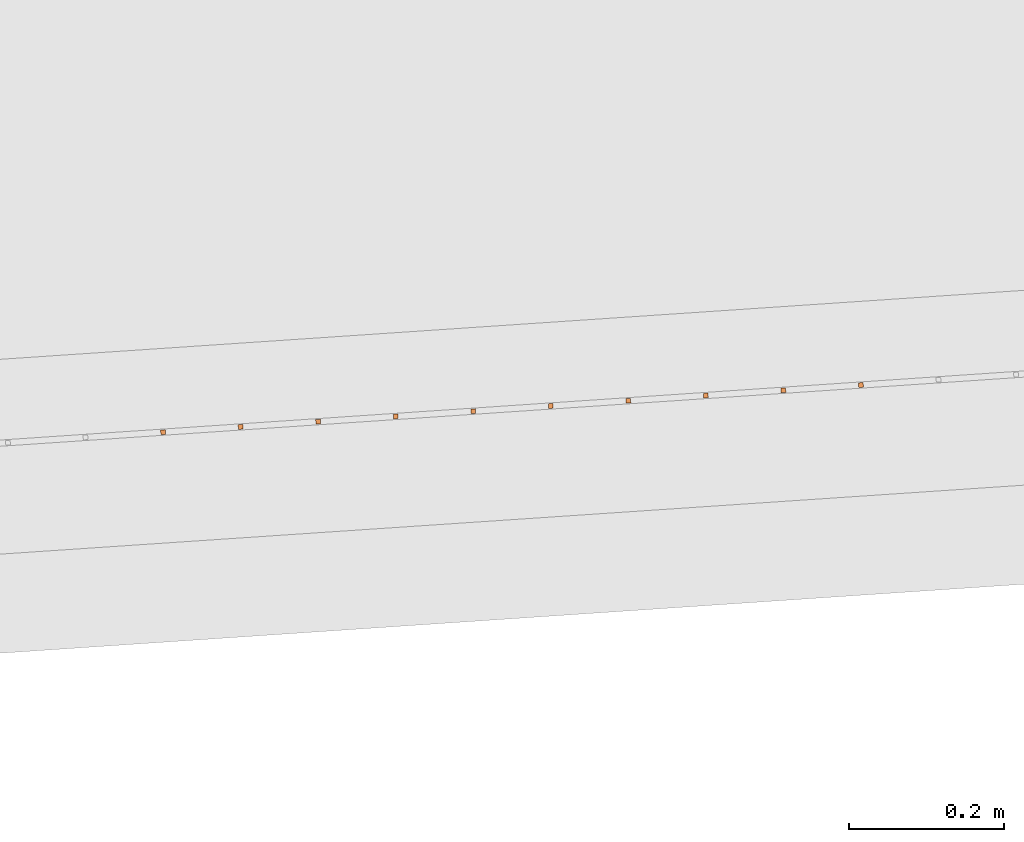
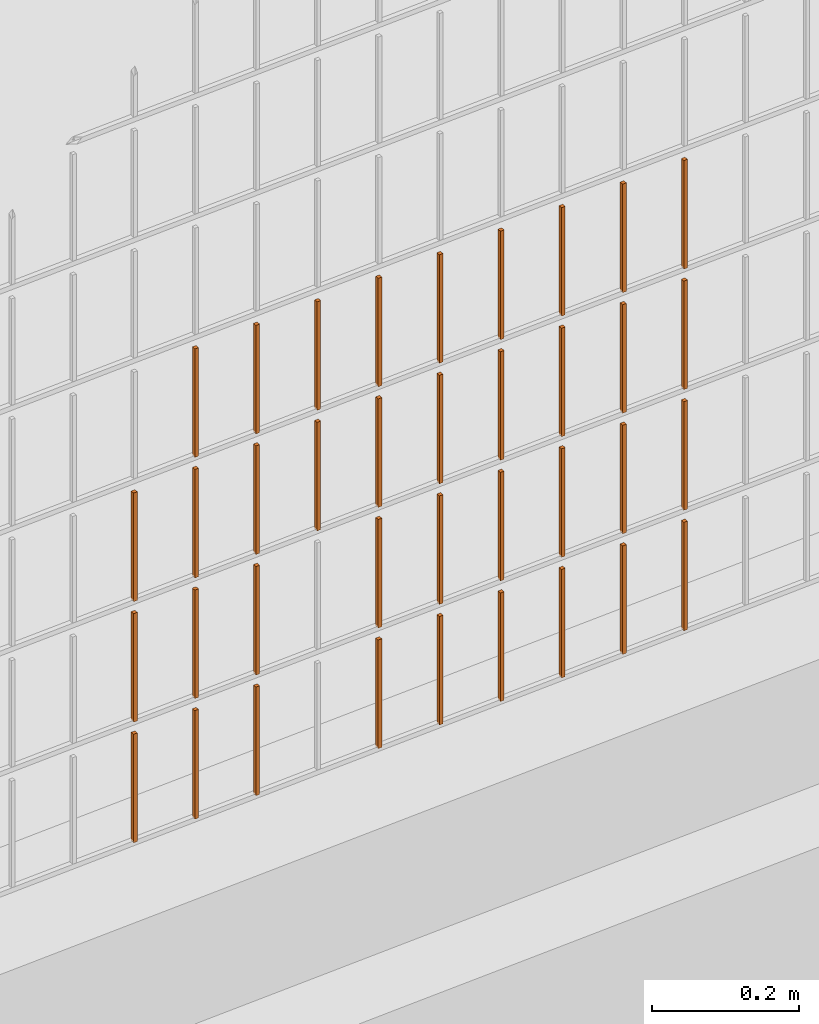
# One storey, part 295 of 1809: 37 proxies, 1 element without a shape of its own.
"""IFC2X3 building model written with IfcOpenShell, lengths in millimetres."""

import ifcopenshell
import ifcopenshell.guid

model = None  # the IFC model being written
_history = None  # IfcOwnerHistory: only IFC2X3 demands one
_inside = {}  # id of a spatial element -> (the spatial element, [elements in it])
_under = {}  # id of a project, library or spatial element -> (it, [spatial elements below it])
_declared = {}  # id of a project -> (the project, [libraries it declares])
_typed = {}  # id of a type object -> (the type object, [elements of that type])
_made_of = {}  # id of a material, layer set ... -> (it, [elements and type objects made of it])


def new_model(schema):
    """Start an empty IFC model of exactly this schema.

    Asked for "IFC4X3", IfcOpenShell would pick the latest addendum, in which some entities
    have other attributes; the version numbers below select the first issue.
    IFC2X3 requires an IfcOwnerHistory on every rooted entity: one is made here for all.
    """
    global model, _history
    if schema == "IFC4X3":
        model = ifcopenshell.file(schema_version=(4, 3, 0, 0))
    else:
        model = ifcopenshell.file(schema=schema)
    _inside.clear()
    _under.clear()
    _declared.clear()
    _typed.clear()
    _made_of.clear()
    _history = None
    if model.schema == "IFC2X3":
        org = make("IfcOrganization", Name="unknown")
        user = make(
            "IfcPersonAndOrganization",
            ThePerson=make("IfcPerson", FamilyName="unknown"),
            TheOrganization=org,
        )
        app = make(
            "IfcApplication",
            ApplicationDeveloper=org,
            Version="unknown",
            ApplicationFullName="unknown",
            ApplicationIdentifier="unknown",
        )
        _history = make(
            "IfcOwnerHistory",
            OwningUser=user,
            OwningApplication=app,
            ChangeAction="ADDED",
            CreationDate=0,
        )
    return model


def make(cls, **values):
    """One entity of the class cls with the attributes given. An attribute that is None is left unset."""
    return model.create_entity(
        cls, **{name: value for name, value in values.items() if value is not None}
    )


def entity(cls, *values):
    """Any entity or typed value of the class cls, its attributes in the order of the schema. None: left unset."""
    e = model.create_entity(cls)
    for i, value in enumerate(values):
        if value is not None:
            e[i] = value
    return e


def rooted(cls, **values):
    """An entity with a GlobalId (a new one), such as an element, a storey or a relation."""
    return make(cls, GlobalId=ifcopenshell.guid.new(), OwnerHistory=_history, **values)


def si_unit(unit_type, name, prefix=None):
    """IfcSIUnit, for example si_unit("LENGTHUNIT", "METRE", prefix="MILLI")."""
    return make("IfcSIUnit", UnitType=unit_type, Prefix=prefix, Name=name)


def converted_unit(unit_type, name, factor, base, dimensions=None, offset=None):
    """IfcConversionBasedUnit, such as the inch: factor (a typed value) times the base unit."""
    return make(
        "IfcConversionBasedUnit"
        if offset is None
        else "IfcConversionBasedUnitWithOffset",
        ConversionOffset=offset,
        Dimensions=None
        if dimensions is None
        else entity("IfcDimensionalExponents", *dimensions),
        UnitType=unit_type,
        Name=name,
        ConversionFactor=make(
            "IfcMeasureWithUnit", ValueComponent=factor, UnitComponent=base
        ),
    )


def derived_unit(unit_type, elements):
    """IfcDerivedUnit: a product of units, each with its exponent."""
    return make(
        "IfcDerivedUnit",
        Elements=[
            make("IfcDerivedUnitElement", Unit=unit, Exponent=power)
            for unit, power in elements
        ],
        UnitType=unit_type,
    )


def money_unit(currency):
    """IfcMonetaryUnit."""
    return make("IfcMonetaryUnit", Currency=currency)


def assignment(units):
    """IfcUnitAssignment: the units of a project."""
    return None if units is None else make("IfcUnitAssignment", Units=units)


def point(xyz):
    """IfcCartesianPoint."""
    return None if xyz is None else make("IfcCartesianPoint", Coordinates=xyz)


def direction(xyz):
    """IfcDirection."""
    return None if xyz is None else make("IfcDirection", DirectionRatios=xyz)


def frame(location, z_axis=None, x_axis=None):
    """IfcAxis2Placement3D, a coordinate frame: its origin and axes. An axis left out is left unset."""
    return make(
        "IfcAxis2Placement3D",
        Location=point(location),
        Axis=direction(z_axis),
        RefDirection=direction(x_axis),
    )


def origin_with_axes():
    """The frame at (0, 0, 0) with the z axis (0, 0, 1) and the x axis (1, 0, 0) written out."""
    return frame((0.0, 0.0, 0.0), z_axis=(0.0, 0.0, 1.0), x_axis=(1.0, 0.0, 0.0))


def place(relative_to, where):
    """IfcLocalPlacement: puts the frame where relative to a parent placement (None: the world)."""
    return make(
        "IfcLocalPlacement", PlacementRelTo=relative_to, RelativePlacement=where
    )


def context(
    kind, dimensions, precision=None, world=None, true_north=None, identifier=None
):
    """IfcGeometricRepresentationContext, for example the 3D "Model" context."""
    return make(
        "IfcGeometricRepresentationContext",
        ContextIdentifier=identifier,
        ContextType=kind,
        CoordinateSpaceDimension=dimensions,
        Precision=precision,
        WorldCoordinateSystem=world,
        TrueNorth=true_north,
    )


def subcontext(parent, identifier, kind, view, scale=None):
    """IfcGeometricRepresentationSubContext, for example "Body" below "Model"."""
    return make(
        "IfcGeometricRepresentationSubContext",
        ContextIdentifier=identifier,
        ContextType=kind,
        ParentContext=parent,
        TargetScale=scale,
        TargetView=view,
    )


def project(units=None, contexts=None):
    """IfcProject with its units and contexts."""
    return rooted(
        "IfcProject",
        Name="project",
        RepresentationContexts=contexts,
        UnitsInContext=assignment(units),
    )


def spatial(cls, under=None, at=None, **own):
    """A site, building, storey or space (cls), placed at a placement, below another one or the project."""
    s = rooted(cls, ObjectPlacement=at, **own)
    if under is not None:
        _under.setdefault(under.id(), (under, []))[1].append(s)
    return s


def faces_of(points, faces, orient=None, outer=None):
    """IfcFace entities. A face is a list of loops; a loop is a list of indices into points, from 0.

    orient and outer hold one flag for each loop. By default every Orientation is true, the
    first loop of a face is its IfcFaceOuterBound and the others are IfcFaceBound.
    """
    made = []
    for i, loops in enumerate(faces):
        bounds = []
        for j, loop in enumerate(loops):
            is_outer = j == 0 if outer is None else outer[i][j]
            bounds.append(
                make(
                    "IfcFaceOuterBound" if is_outer else "IfcFaceBound",
                    Bound=make("IfcPolyLoop", Polygon=[points[k] for k in loop]),
                    Orientation=True if orient is None else orient[i][j],
                )
            )
        made.append(make("IfcFace", Bounds=bounds))
    return made


def faceted_brep(points, faces, orient=None, outer=None, voids=None):
    """IfcFacetedBrep: a solid bounded by flat faces; with voids (closed shells), ...WithVoids."""
    shared = [point(p) for p in points]
    hull = make("IfcClosedShell", CfsFaces=faces_of(shared, faces, orient, outer))
    if voids is None:
        return make("IfcFacetedBrep", Outer=hull)
    return make(
        "IfcFacetedBrepWithVoids",
        Outer=hull,
        Voids=[
            make(cls, CfsFaces=faces_of(shared, fs, o, b)) for cls, fs, o, b in voids
        ],
    )


def shape(context_of_items, identifier, shape_type, items):
    """IfcShapeRepresentation: the items that make up one representation, for example the "Body"."""
    return make(
        "IfcShapeRepresentation",
        ContextOfItems=context_of_items,
        RepresentationIdentifier=identifier,
        RepresentationType=shape_type,
        Items=items,
    )


def source(mapping_origin, context_of_items, identifier, shape_type, items):
    """IfcRepresentationMap: a shape defined once, which mapped items show again and again."""
    return make(
        "IfcRepresentationMap",
        MappingOrigin=mapping_origin,
        MappedRepresentation=shape(context_of_items, identifier, shape_type, items),
    )


def transform(
    local_origin,
    x_axis=None,
    y_axis=None,
    z_axis=None,
    scale=None,
    scale2=None,
    scale3=None,
    uniform=True,
):
    """IfcCartesianTransformationOperator3D, or its non-uniform kind. x_axis, y_axis, z_axis: its Axis1, 2, 3."""
    if uniform:
        return make(
            "IfcCartesianTransformationOperator3D",
            Axis1=direction(x_axis),
            Axis2=direction(y_axis),
            LocalOrigin=point(local_origin),
            Scale=scale,
            Axis3=direction(z_axis),
        )
    return make(
        "IfcCartesianTransformationOperator3DnonUniform",
        Axis1=direction(x_axis),
        Axis2=direction(y_axis),
        LocalOrigin=point(local_origin),
        Scale=scale,
        Axis3=direction(z_axis),
        Scale2=scale2,
        Scale3=scale3,
    )


def mapped(mapping_source, mapping_target):
    """IfcMappedItem: shows the shape of a source again, moved by a transform."""
    return make(
        "IfcMappedItem", MappingSource=mapping_source, MappingTarget=mapping_target
    )


def material(Name=None, Category=None):
    """IfcMaterial."""
    return make("IfcMaterial", Name=Name, Category=Category)


def made_of(thing, what):
    """Note that an element or type object is made of a material, layer set ...; save() writes the relation."""
    if what is not None:
        _made_of.setdefault(what.id(), (what, []))[1].append(thing)
    return thing


def type_object(cls, material=None, **own):
    """A type object (cls), such as IfcWallType, which elements share."""
    return made_of(rooted(cls, **own), material)


def element(
    cls,
    number,
    at=None,
    inside=None,
    cuts=None,
    type_object=None,
    material=None,
    context=None,
    identifier="Body",
    shape_type=None,
    held_by="IfcProductDefinitionShape",
    body=None,
    shapes=None,
    **own,
):
    """One element of the class cls, such as IfcWall. Its Tag is "e" and its number.

    at: its placement. inside: the storey or other place that contains it. cuts: it is an
    opening in that element (IfcRelVoidsElement). A single representation is given by context,
    identifier, shape_type and body (its items); several are given by shapes. held_by: the class
    of the entity that holds the representations. save() writes the other relations.
    """
    e = rooted(cls, Tag="e%d" % number, ObjectPlacement=at, **own)
    if body is not None:
        shapes = [shape(context, identifier, shape_type, body)]
    if shapes is not None:
        e.Representation = make(held_by, Representations=shapes)
    if inside is not None:
        _inside.setdefault(inside.id(), (inside, []))[1].append(e)
    if cuts is not None:
        rooted(
            "IfcRelVoidsElement", RelatingBuildingElement=cuts, RelatedOpeningElement=e
        )
    if type_object is not None:
        _typed.setdefault(type_object.id(), (type_object, []))[1].append(e)
    return made_of(e, material)


def aggregate(whole, parts):
    """IfcRelAggregates: a whole, such as a stair, and the parts it consists of."""
    return rooted("IfcRelAggregates", RelatingObject=whole, RelatedObjects=parts)


def save(model, path):
    """Write the relations noted so far, then the file.

    IfcRelAggregates (storeys below a building ...), IfcRelContainedInSpatialStructure (elements
    in a storey), IfcRelDefinesByType, IfcRelAssociatesMaterial and IfcRelDeclares: one each for
    every whole, place, type object, material and project.
    """
    for whole, parts in _under.values():
        aggregate(whole, parts)
    for where, things in _inside.values():
        rooted(
            "IfcRelContainedInSpatialStructure",
            RelatedElements=things,
            RelatingStructure=where,
        )
    for kind, things in _typed.values():
        rooted("IfcRelDefinesByType", RelatedObjects=things, RelatingType=kind)
    for what, things in _made_of.values():
        rooted("IfcRelAssociatesMaterial", RelatedObjects=things, RelatingMaterial=what)
    for by, libraries in _declared.values():
        rooted("IfcRelDeclares", RelatingContext=by, RelatedDefinitions=libraries)
    model.write(path)


model = new_model("IFC2X3")

# Units and contexts
model_context = context("Model", 3, precision=0.01, world=origin_with_axes(), true_north=direction((0.0, 1.0)))
body_context = subcontext(model_context, "Body", "Model", "MODEL_VIEW")
ifc_project = project(units=[si_unit("LENGTHUNIT", "METRE", prefix="MILLI"), si_unit("AREAUNIT", "SQUARE_METRE"), si_unit("VOLUMEUNIT", "CUBIC_METRE"), converted_unit("PLANEANGLEUNIT", "DEGREE", entity("IfcPlaneAngleMeasure", 0.0174532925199), si_unit("PLANEANGLEUNIT", "RADIAN"), dimensions=[0, 0, 0, 0, 0, 0, 0]), si_unit("SOLIDANGLEUNIT", "STERADIAN"), money_unit("EUR"), converted_unit("TIMEUNIT", "Year", entity("IfcTimeMeasure", 31556926.0), si_unit("TIMEUNIT", "SECOND"), dimensions=[0, 0, 1, 0, 0, 0, 0]), si_unit("MASSUNIT", "GRAM", prefix="KILO"), si_unit("THERMODYNAMICTEMPERATUREUNIT", "DEGREE_CELSIUS"), si_unit("LUMINOUSINTENSITYUNIT", "LUMEN"), si_unit("ENERGYUNIT", "JOULE", prefix="MEGA"), derived_unit("THERMALCONDUCTANCEUNIT", [(si_unit("POWERUNIT", "WATT"), 1), (si_unit("LENGTHUNIT", "METRE"), -1), (si_unit("THERMODYNAMICTEMPERATUREUNIT", "KELVIN"), -1)]), derived_unit("SPECIFICHEATCAPACITYUNIT", [(si_unit("ENERGYUNIT", "JOULE"), 1), (si_unit("MASSUNIT", "GRAM", prefix="KILO"), -1), (si_unit("THERMODYNAMICTEMPERATUREUNIT", "KELVIN"), -1)]), derived_unit("MASSDENSITYUNIT", [(si_unit("MASSUNIT", "GRAM", prefix="KILO"), 1), (si_unit("VOLUMEUNIT", "CUBIC_METRE"), -1)])], contexts=[model_context])

# Site, building, storey
site_placement = place(None, origin_with_axes())
site = spatial("IfcSite", under=ifc_project, at=site_placement, Name="Politse- ja Piirivalveameti ning Päästeameti ühishoone", CompositionType="ELEMENT")
building_placement = place(site_placement, origin_with_axes())
building = spatial("IfcBuilding", under=site, at=building_placement, Name="Politse- ja Piirivalveameti ning Päästeameti ühishoone", CompositionType="ELEMENT")
storey_placement = place(building_placement, origin_with_axes())
storey = spatial("IfcBuildingStorey", under=building, at=storey_placement, Name="Esimene korrus", CompositionType="ELEMENT", Elevation=0.0)

# Proxies
building_element_proxy_type_1 = type_object("IfcBuildingElementProxyType", Name="Railing Type", PredefinedType="NOTDEFINED")
proxy_1_placement = place(storey_placement, frame((89252.001212, -29183.4766571, 203.661247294), z_axis=(0.0, 0.0, 1.0), x_axis=(1.0, 0.0, 0.0)))
proxy_1 = element("IfcBuildingElementProxy", 1, at=proxy_1_placement, inside=storey, type_object=building_element_proxy_type_1, Name="PIIRDEAED")
ifc_material = material(Name="ET-03_Raud")
building_element_proxy_type_2 = type_object("IfcBuildingElementProxyType", Name="IfcBuildingElementProxy", PredefinedType="NOTDEFINED")
shared_shape_1 = source(origin_with_axes(), body_context, "Body", "Brep", [
    faceted_brep([(3.0, 3.0, -0.000752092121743), (-3.0, 3.0, -0.000752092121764), (-3.0, 3.0, 179.99926046), (3.0, 3.0, 179.99926046), (3.0, -3.0, 0.000752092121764), (-3.0, -3.0, 0.000752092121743), (-3.0, -3.0, 180.000764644), (3.0, -3.0, 180.000764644)], [[[0, 1, 2, 3]], [[0, 4, 5, 1]], [[1, 5, 6, 2]], [[3, 2, 6, 7]], [[4, 0, 3, 7]], [[5, 4, 7, 6]]]),
])
proxy_2_placement = place(proxy_1_placement, frame((-45223.6391147, -20352.4609159, 615.871103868), z_axis=(0.0, 0.0, 1.0), x_axis=(1.0, 0.0, 0.0)))
proxy_2 = element("IfcBuildingElementProxy", 2, at=proxy_2_placement, type_object=building_element_proxy_type_2, material=ifc_material, Name="BALUSTER - 001", context=body_context, shape_type="MappedRepresentation", body=[
    mapped(shared_shape_1, transform((0.0, 0.0, 0.0), x_axis=(-0.0673926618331, 0.997726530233, 0.0), y_axis=(-0.997726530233, -0.0673926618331, 0.0), z_axis=(0.0, 0.0, 1.0))),
])
shared_shape_2 = source(origin_with_axes(), body_context, "Body", "Brep", [
    faceted_brep([(3.0, 3.0, -0.000752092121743), (-3.0, 3.0, -0.000752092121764), (-3.0, 3.0, 179.99926046), (3.0, 3.0, 179.99926046), (3.0, -3.0, 0.000752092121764), (-3.0, -3.0, 0.000752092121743), (-3.0, -3.0, 180.000764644), (3.0, -3.0, 180.000764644)], [[[0, 1, 2, 3]], [[0, 4, 5, 1]], [[1, 5, 6, 2]], [[3, 2, 6, 7]], [[4, 0, 3, 7]], [[5, 4, 7, 6]]]),
])
proxy_3_placement = place(proxy_1_placement, frame((-45223.6391147, -20352.4609159, 415.871103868), z_axis=(0.0, 0.0, 1.0), x_axis=(1.0, 0.0, 0.0)))
proxy_3 = element("IfcBuildingElementProxy", 3, at=proxy_3_placement, type_object=building_element_proxy_type_2, material=ifc_material, Name="BALUSTER - 001", context=body_context, shape_type="MappedRepresentation", body=[
    mapped(shared_shape_2, transform((0.0, 0.0, 0.0), x_axis=(-0.0673926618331, 0.997726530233, 0.0), y_axis=(-0.997726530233, -0.0673926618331, 0.0), z_axis=(0.0, 0.0, 1.0))),
])
shared_shape_3 = source(origin_with_axes(), body_context, "Body", "Brep", [
    faceted_brep([(3.0, 3.0, -0.000752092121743), (-3.0, 3.0, -0.000752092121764), (-3.0, 3.0, 179.99926046), (3.0, 3.0, 179.99926046), (3.0, -3.0, 0.000752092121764), (-3.0, -3.0, 0.000752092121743), (-3.0, -3.0, 180.000764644), (3.0, -3.0, 180.000764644)], [[[0, 1, 2, 3]], [[0, 4, 5, 1]], [[1, 5, 6, 2]], [[3, 2, 6, 7]], [[4, 0, 3, 7]], [[5, 4, 7, 6]]]),
])
proxy_4_placement = place(proxy_1_placement, frame((-45223.6391147, -20352.4609159, 15.8711038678), z_axis=(0.0, 0.0, 1.0), x_axis=(1.0, 0.0, 0.0)))
proxy_4 = element("IfcBuildingElementProxy", 4, at=proxy_4_placement, type_object=building_element_proxy_type_2, material=ifc_material, Name="BALUSTER - 001", context=body_context, shape_type="MappedRepresentation", body=[
    mapped(shared_shape_3, transform((0.0, 0.0, 0.0), x_axis=(-0.0673926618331, 0.997726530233, 0.0), y_axis=(-0.997726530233, -0.0673926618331, 0.0), z_axis=(0.0, 0.0, 1.0))),
])
shared_shape_4 = source(origin_with_axes(), body_context, "Body", "Brep", [
    faceted_brep([(3.0, 3.0, -0.000752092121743), (-3.0, 3.0, -0.000752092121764), (-3.0, 3.0, 179.99926046), (3.0, 3.0, 179.99926046), (3.0, -3.0, 0.000752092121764), (-3.0, -3.0, 0.000752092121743), (-3.0, -3.0, 180.000764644), (3.0, -3.0, 180.000764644)], [[[0, 1, 2, 3]], [[0, 4, 5, 1]], [[1, 5, 6, 2]], [[3, 2, 6, 7]], [[4, 0, 3, 7]], [[5, 4, 7, 6]]]),
])
proxy_5_placement = place(proxy_1_placement, frame((-45822.2750329, -20392.896513, 415.720685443), z_axis=(0.0, 0.0, 1.0), x_axis=(1.0, 0.0, 0.0)))
proxy_5 = element("IfcBuildingElementProxy", 5, at=proxy_5_placement, type_object=building_element_proxy_type_2, material=ifc_material, Name="BALUSTER - 001", context=body_context, shape_type="MappedRepresentation", body=[
    mapped(shared_shape_4, transform((0.0, 0.0, 0.0), x_axis=(-0.0673926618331, 0.997726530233, 0.0), y_axis=(-0.997726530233, -0.0673926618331, 0.0), z_axis=(0.0, 0.0, 1.0))),
])
proxy_6_placement = place(proxy_1_placement, frame((-45822.2750329, -20392.896513, 615.720685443), z_axis=(0.0, 0.0, 1.0), x_axis=(1.0, 0.0, 0.0)))
proxy_6 = element("IfcBuildingElementProxy", 6, at=proxy_6_placement, type_object=building_element_proxy_type_2, material=ifc_material, Name="BALUSTER - 001", context=body_context, shape_type="MappedRepresentation", body=[
    mapped(shared_shape_4, transform((0.0, 0.0, 0.0), x_axis=(-0.0673926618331, 0.997726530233, 0.0), y_axis=(-0.997726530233, -0.0673926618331, 0.0), z_axis=(0.0, 0.0, 1.0))),
])
shared_shape_5 = source(origin_with_axes(), body_context, "Body", "Brep", [
    faceted_brep([(3.0, 3.0, -0.000752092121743), (-3.0, 3.0, -0.000752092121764), (-3.0, 3.0, 179.99926046), (3.0, 3.0, 179.99926046), (3.0, -3.0, 0.000752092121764), (-3.0, -3.0, 0.000752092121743), (-3.0, -3.0, 180.000764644), (3.0, -3.0, 180.000764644)], [[[0, 1, 2, 3]], [[0, 4, 5, 1]], [[1, 5, 6, 2]], [[3, 2, 6, 7]], [[4, 0, 3, 7]], [[5, 4, 7, 6]]]),
])
proxy_7_placement = place(proxy_1_placement, frame((-45223.6391147, -20352.4609159, 215.871103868), z_axis=(0.0, 0.0, 1.0), x_axis=(1.0, 0.0, 0.0)))
proxy_7 = element("IfcBuildingElementProxy", 7, at=proxy_7_placement, type_object=building_element_proxy_type_2, material=ifc_material, Name="BALUSTER - 001", context=body_context, shape_type="MappedRepresentation", body=[
    mapped(shared_shape_5, transform((0.0, 0.0, 0.0), x_axis=(-0.0673926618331, 0.997726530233, 0.0), y_axis=(-0.997726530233, -0.0673926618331, 0.0), z_axis=(0.0, 0.0, 1.0))),
])
shared_shape_6 = source(origin_with_axes(), body_context, "Body", "Brep", [
    faceted_brep([(3.0, 3.0, -0.000752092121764), (-3.0, 3.0, -0.000752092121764), (-3.0, 3.0, 179.99926046), (3.0, 3.0, 179.99926046), (3.0, -3.0, 0.000752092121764), (-3.0, -3.0, 0.000752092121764), (-3.0, -3.0, 180.000764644), (3.0, -3.0, 180.000764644)], [[[0, 1, 2, 3]], [[0, 4, 5, 1]], [[1, 5, 6, 2]], [[3, 2, 6, 7]], [[4, 0, 3, 7]], [[5, 4, 7, 6]]]),
])
proxy_8_placement = place(proxy_1_placement, frame((-45622.7297268, -20379.4179807, 615.770824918), z_axis=(0.0, 0.0, 1.0), x_axis=(1.0, 0.0, 0.0)))
proxy_8 = element("IfcBuildingElementProxy", 8, at=proxy_8_placement, type_object=building_element_proxy_type_2, material=ifc_material, Name="BALUSTER - 001", context=body_context, shape_type="MappedRepresentation", body=[
    mapped(shared_shape_6, transform((0.0, 0.0, 0.0), x_axis=(-0.0673926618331, 0.997726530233, 0.0), y_axis=(-0.997726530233, -0.0673926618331, 0.0), z_axis=(0.0, 0.0, 1.0))),
])
shared_shape_7 = source(origin_with_axes(), body_context, "Body", "Brep", [
    faceted_brep([(3.0, 3.0, -0.000752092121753), (-3.0, 3.0, -0.000752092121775), (-3.0, 3.0, 179.99926046), (3.0, 3.0, 179.99926046), (3.0, -3.0, 0.000752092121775), (-3.0, -3.0, 0.000752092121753), (-3.0, -3.0, 180.000764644), (3.0, -3.0, 180.000764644)], [[[0, 1, 2, 3]], [[0, 4, 5, 1]], [[1, 5, 6, 2]], [[3, 2, 6, 7]], [[4, 0, 3, 7]], [[5, 4, 7, 6]]]),
])
proxy_9_placement = place(proxy_1_placement, frame((-45423.1844208, -20365.9394483, 15.820964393), z_axis=(0.0, 0.0, 1.0), x_axis=(1.0, 0.0, 0.0)))
proxy_9 = element("IfcBuildingElementProxy", 9, at=proxy_9_placement, type_object=building_element_proxy_type_2, material=ifc_material, Name="BALUSTER - 001", context=body_context, shape_type="MappedRepresentation", body=[
    mapped(shared_shape_7, transform((0.0, 0.0, 0.0), x_axis=(-0.0673926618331, 0.997726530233, 0.0), y_axis=(-0.997726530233, -0.0673926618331, 0.0), z_axis=(0.0, 0.0, 1.0))),
])
proxy_10_placement = place(proxy_1_placement, frame((-45922.0476859, -20399.6357792, 15.695615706), z_axis=(0.0, 0.0, 1.0), x_axis=(1.0, 0.0, 0.0)))
proxy_10 = element("IfcBuildingElementProxy", 10, at=proxy_10_placement, type_object=building_element_proxy_type_2, material=ifc_material, Name="BALUSTER - 001", context=body_context, shape_type="MappedRepresentation", body=[
    mapped(shared_shape_7, transform((0.0, 0.0, 0.0), x_axis=(-0.0673926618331, 0.997726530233, 0.0), y_axis=(-0.997726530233, -0.0673926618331, 0.0), z_axis=(0.0, 0.0, 1.0))),
])
proxy_11_placement = place(proxy_1_placement, frame((-45423.1844208, -20365.9394483, 215.820964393), z_axis=(0.0, 0.0, 1.0), x_axis=(1.0, 0.0, 0.0)))
proxy_11 = element("IfcBuildingElementProxy", 11, at=proxy_11_placement, type_object=building_element_proxy_type_2, material=ifc_material, Name="BALUSTER - 001", context=body_context, shape_type="MappedRepresentation", body=[
    mapped(shared_shape_7, transform((0.0, 0.0, 0.0), x_axis=(-0.0673926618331, 0.997726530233, 0.0), y_axis=(-0.997726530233, -0.0673926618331, 0.0), z_axis=(0.0, 0.0, 1.0))),
])
proxy_12_placement = place(proxy_1_placement, frame((-45922.0476859, -20399.6357792, 215.695615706), z_axis=(0.0, 0.0, 1.0), x_axis=(1.0, 0.0, 0.0)))
proxy_12 = element("IfcBuildingElementProxy", 12, at=proxy_12_placement, type_object=building_element_proxy_type_2, material=ifc_material, Name="BALUSTER - 001", context=body_context, shape_type="MappedRepresentation", body=[
    mapped(shared_shape_7, transform((0.0, 0.0, 0.0), x_axis=(-0.0673926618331, 0.997726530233, 0.0), y_axis=(-0.997726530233, -0.0673926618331, 0.0), z_axis=(0.0, 0.0, 1.0))),
])
shared_shape_8 = source(origin_with_axes(), body_context, "Body", "Brep", [
    faceted_brep([(3.0, 3.0, -0.000752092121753), (-3.0, 3.0, -0.000752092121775), (-3.0, 3.0, 179.99926046), (3.0, 3.0, 179.99926046), (3.0, -3.0, 0.000752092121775), (-3.0, -3.0, 0.000752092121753), (-3.0, -3.0, 180.000764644), (3.0, -3.0, 180.000764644)], [[[0, 1, 2, 3]], [[0, 4, 5, 1]], [[1, 5, 6, 2]], [[3, 2, 6, 7]], [[4, 0, 3, 7]], [[5, 4, 7, 6]]]),
])
proxy_13_placement = place(proxy_1_placement, frame((-45423.1844208, -20365.9394483, 415.820964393), z_axis=(0.0, 0.0, 1.0), x_axis=(1.0, 0.0, 0.0)))
proxy_13 = element("IfcBuildingElementProxy", 13, at=proxy_13_placement, type_object=building_element_proxy_type_2, material=ifc_material, Name="BALUSTER - 001", context=body_context, shape_type="MappedRepresentation", body=[
    mapped(shared_shape_8, transform((0.0, 0.0, 0.0), x_axis=(-0.0673926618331, 0.997726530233, 0.0), y_axis=(-0.997726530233, -0.0673926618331, 0.0), z_axis=(0.0, 0.0, 1.0))),
])
proxy_14_placement = place(proxy_1_placement, frame((-45922.0476859, -20399.6357792, 415.695615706), z_axis=(0.0, 0.0, 1.0), x_axis=(1.0, 0.0, 0.0)))
proxy_14 = element("IfcBuildingElementProxy", 14, at=proxy_14_placement, type_object=building_element_proxy_type_2, material=ifc_material, Name="BALUSTER - 001", context=body_context, shape_type="MappedRepresentation", body=[
    mapped(shared_shape_8, transform((0.0, 0.0, 0.0), x_axis=(-0.0673926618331, 0.997726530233, 0.0), y_axis=(-0.997726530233, -0.0673926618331, 0.0), z_axis=(0.0, 0.0, 1.0))),
])
shared_shape_9 = source(origin_with_axes(), body_context, "Body", "Brep", [
    faceted_brep([(3.0, 3.0, -0.000752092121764), (-3.0, 3.0, -0.000752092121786), (-3.0, 3.0, 179.99926046), (3.0, 3.0, 179.99926046), (3.0, -3.0, 0.000752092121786), (-3.0, -3.0, 0.000752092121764), (-3.0, -3.0, 180.000764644), (3.0, -3.0, 180.000764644)], [[[0, 1, 2, 3]], [[0, 4, 5, 1]], [[1, 5, 6, 2]], [[3, 2, 6, 7]], [[4, 0, 3, 7]], [[5, 4, 7, 6]]]),
])
proxy_15_placement = place(proxy_1_placement, frame((-45522.9570738, -20372.6787145, 215.795894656), z_axis=(0.0, 0.0, 1.0), x_axis=(1.0, 0.0, 0.0)))
proxy_15 = element("IfcBuildingElementProxy", 15, at=proxy_15_placement, type_object=building_element_proxy_type_2, material=ifc_material, Name="BALUSTER - 001", context=body_context, shape_type="MappedRepresentation", body=[
    mapped(shared_shape_9, transform((0.0, 0.0, 0.0), x_axis=(-0.0673926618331, 0.997726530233, 0.0), y_axis=(-0.997726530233, -0.0673926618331, 0.0), z_axis=(0.0, 0.0, 1.0))),
])
shared_shape_10 = source(origin_with_axes(), body_context, "Body", "Brep", [
    faceted_brep([(3.0, 3.0, -0.000752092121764), (-3.0, 3.0, -0.000752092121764), (-3.0, 3.0, 179.99926046), (3.0, 3.0, 179.99926046), (3.0, -3.0, 0.000752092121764), (-3.0, -3.0, 0.000752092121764), (-3.0, -3.0, 180.000764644), (3.0, -3.0, 180.000764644)], [[[0, 1, 2, 3]], [[0, 4, 5, 1]], [[1, 5, 6, 2]], [[3, 2, 6, 7]], [[4, 0, 3, 7]], [[5, 4, 7, 6]]]),
])
proxy_16_placement = place(proxy_1_placement, frame((-45622.7297268, -20379.4179807, 215.770824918), z_axis=(0.0, 0.0, 1.0), x_axis=(1.0, 0.0, 0.0)))
proxy_16 = element("IfcBuildingElementProxy", 16, at=proxy_16_placement, type_object=building_element_proxy_type_2, material=ifc_material, Name="BALUSTER - 001", context=body_context, shape_type="MappedRepresentation", body=[
    mapped(shared_shape_10, transform((0.0, 0.0, 0.0), x_axis=(-0.0673926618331, 0.997726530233, 0.0), y_axis=(-0.997726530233, -0.0673926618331, 0.0), z_axis=(0.0, 0.0, 1.0))),
])
proxy_17_placement = place(proxy_1_placement, frame((-45622.7297268, -20379.4179807, 415.770824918), z_axis=(0.0, 0.0, 1.0), x_axis=(1.0, 0.0, 0.0)))
proxy_17 = element("IfcBuildingElementProxy", 17, at=proxy_17_placement, type_object=building_element_proxy_type_2, material=ifc_material, Name="BALUSTER - 001", context=body_context, shape_type="MappedRepresentation", body=[
    mapped(shared_shape_10, transform((0.0, 0.0, 0.0), x_axis=(-0.0673926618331, 0.997726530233, 0.0), y_axis=(-0.997726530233, -0.0673926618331, 0.0), z_axis=(0.0, 0.0, 1.0))),
])
shared_shape_11 = source(origin_with_axes(), body_context, "Body", "Brep", [
    faceted_brep([(3.0, 3.0, -0.000752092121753), (-3.0, 3.0, -0.000752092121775), (-3.0, 3.0, 179.99926046), (3.0, 3.0, 179.99926046), (3.0, -3.0, 0.000752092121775), (-3.0, -3.0, 0.000752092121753), (-3.0, -3.0, 180.000764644), (3.0, -3.0, 180.000764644)], [[[0, 1, 2, 3]], [[0, 4, 5, 1]], [[1, 5, 6, 2]], [[3, 2, 6, 7]], [[4, 0, 3, 7]], [[5, 4, 7, 6]]]),
])
proxy_18_placement = place(proxy_1_placement, frame((-45423.1844208, -20365.9394483, 615.820964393), z_axis=(0.0, 0.0, 1.0), x_axis=(1.0, 0.0, 0.0)))
proxy_18 = element("IfcBuildingElementProxy", 18, at=proxy_18_placement, type_object=building_element_proxy_type_2, material=ifc_material, Name="BALUSTER - 001", context=body_context, shape_type="MappedRepresentation", body=[
    mapped(shared_shape_11, transform((0.0, 0.0, 0.0), x_axis=(-0.0673926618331, 0.997726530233, 0.0), y_axis=(-0.997726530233, -0.0673926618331, 0.0), z_axis=(0.0, 0.0, 1.0))),
])
proxy_19_placement = place(proxy_1_placement, frame((-45922.0476859, -20399.6357792, 615.695615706), z_axis=(0.0, 0.0, 1.0), x_axis=(1.0, 0.0, 0.0)))
proxy_19 = element("IfcBuildingElementProxy", 19, at=proxy_19_placement, type_object=building_element_proxy_type_2, material=ifc_material, Name="BALUSTER - 001", context=body_context, shape_type="MappedRepresentation", body=[
    mapped(shared_shape_11, transform((0.0, 0.0, 0.0), x_axis=(-0.0673926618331, 0.997726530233, 0.0), y_axis=(-0.997726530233, -0.0673926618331, 0.0), z_axis=(0.0, 0.0, 1.0))),
])
shared_shape_12 = source(origin_with_axes(), body_context, "Body", "Brep", [
    faceted_brep([(3.0, 3.0, -0.000752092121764), (-3.0, 3.0, -0.000752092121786), (-3.0, 3.0, 179.99926046), (3.0, 3.0, 179.99926046), (3.0, -3.0, 0.000752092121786), (-3.0, -3.0, 0.000752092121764), (-3.0, -3.0, 180.000764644), (3.0, -3.0, 180.000764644)], [[[0, 1, 2, 3]], [[0, 4, 5, 1]], [[1, 5, 6, 2]], [[3, 2, 6, 7]], [[4, 0, 3, 7]], [[5, 4, 7, 6]]]),
])
proxy_20_placement = place(proxy_1_placement, frame((-45522.9570738, -20372.6787145, 615.795894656), z_axis=(0.0, 0.0, 1.0), x_axis=(1.0, 0.0, 0.0)))
proxy_20 = element("IfcBuildingElementProxy", 20, at=proxy_20_placement, type_object=building_element_proxy_type_2, material=ifc_material, Name="BALUSTER - 001", context=body_context, shape_type="MappedRepresentation", body=[
    mapped(shared_shape_12, transform((0.0, 0.0, 0.0), x_axis=(-0.0673926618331, 0.997726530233, 0.0), y_axis=(-0.997726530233, -0.0673926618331, 0.0), z_axis=(0.0, 0.0, 1.0))),
])
shared_shape_13 = source(origin_with_axes(), body_context, "Body", "Brep", [
    faceted_brep([(3.0, 3.0, -0.000752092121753), (-3.0, 3.0, -0.000752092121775), (-3.0, 3.0, 179.99926046), (3.0, 3.0, 179.99926046), (3.0, -3.0, 0.000752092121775), (-3.0, -3.0, 0.000752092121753), (-3.0, -3.0, 180.000764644), (3.0, -3.0, 180.000764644)], [[[0, 1, 2, 3]], [[0, 4, 5, 1]], [[1, 5, 6, 2]], [[3, 2, 6, 7]], [[4, 0, 3, 7]], [[5, 4, 7, 6]]]),
])
proxy_21_placement = place(proxy_1_placement, frame((-45323.4117678, -20359.2001821, 15.8460341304), z_axis=(0.0, 0.0, 1.0), x_axis=(1.0, 0.0, 0.0)))
proxy_21 = element("IfcBuildingElementProxy", 21, at=proxy_21_placement, type_object=building_element_proxy_type_2, material=ifc_material, Name="BALUSTER - 001", context=body_context, shape_type="MappedRepresentation", body=[
    mapped(shared_shape_13, transform((0.0, 0.0, 0.0), x_axis=(-0.0673926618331, 0.997726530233, 0.0), y_axis=(-0.997726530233, -0.0673926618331, 0.0), z_axis=(0.0, 0.0, 1.0))),
])
proxy_22_placement = place(proxy_1_placement, frame((-46021.8203389, -20406.3750454, 15.6705459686), z_axis=(0.0, 0.0, 1.0), x_axis=(1.0, 0.0, 0.0)))
proxy_22 = element("IfcBuildingElementProxy", 22, at=proxy_22_placement, type_object=building_element_proxy_type_2, material=ifc_material, Name="BALUSTER - 001", context=body_context, shape_type="MappedRepresentation", body=[
    mapped(shared_shape_13, transform((0.0, 0.0, 0.0), x_axis=(-0.0673926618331, 0.997726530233, 0.0), y_axis=(-0.997726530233, -0.0673926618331, 0.0), z_axis=(0.0, 0.0, 1.0))),
])
shared_shape_14 = source(origin_with_axes(), body_context, "Body", "Brep", [
    faceted_brep([(3.0, 3.0, -0.000752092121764), (-3.0, 3.0, -0.000752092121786), (-3.0, 3.0, 179.99926046), (3.0, 3.0, 179.99926046), (3.0, -3.0, 0.000752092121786), (-3.0, -3.0, 0.000752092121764), (-3.0, -3.0, 180.000764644), (3.0, -3.0, 180.000764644)], [[[0, 1, 2, 3]], [[0, 4, 5, 1]], [[1, 5, 6, 2]], [[3, 2, 6, 7]], [[4, 0, 3, 7]], [[5, 4, 7, 6]]]),
])
proxy_23_placement = place(proxy_1_placement, frame((-45522.9570738, -20372.6787145, 415.795894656), z_axis=(0.0, 0.0, 1.0), x_axis=(1.0, 0.0, 0.0)))
proxy_23 = element("IfcBuildingElementProxy", 23, at=proxy_23_placement, type_object=building_element_proxy_type_2, material=ifc_material, Name="BALUSTER - 001", context=body_context, shape_type="MappedRepresentation", body=[
    mapped(shared_shape_14, transform((0.0, 0.0, 0.0), x_axis=(-0.0673926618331, 0.997726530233, 0.0), y_axis=(-0.997726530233, -0.0673926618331, 0.0), z_axis=(0.0, 0.0, 1.0))),
])
shared_shape_15 = source(origin_with_axes(), body_context, "Body", "Brep", [
    faceted_brep([(3.0, 3.0, -0.000752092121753), (-3.0, 3.0, -0.000752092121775), (-3.0, 3.0, 179.99926046), (3.0, 3.0, 179.99926046), (3.0, -3.0, 0.000752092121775), (-3.0, -3.0, 0.000752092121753), (-3.0, -3.0, 180.000764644), (3.0, -3.0, 180.000764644)], [[[0, 1, 2, 3]], [[0, 4, 5, 1]], [[1, 5, 6, 2]], [[3, 2, 6, 7]], [[4, 0, 3, 7]], [[5, 4, 7, 6]]]),
])
proxy_24_placement = place(proxy_1_placement, frame((-45323.4117678, -20359.2001821, 615.84603413), z_axis=(0.0, 0.0, 1.0), x_axis=(1.0, 0.0, 0.0)))
proxy_24 = element("IfcBuildingElementProxy", 24, at=proxy_24_placement, type_object=building_element_proxy_type_2, material=ifc_material, Name="BALUSTER - 001", context=body_context, shape_type="MappedRepresentation", body=[
    mapped(shared_shape_15, transform((0.0, 0.0, 0.0), x_axis=(-0.0673926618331, 0.997726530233, 0.0), y_axis=(-0.997726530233, -0.0673926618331, 0.0), z_axis=(0.0, 0.0, 1.0))),
])
proxy_25_placement = place(proxy_1_placement, frame((-46021.8203389, -20406.3750454, 615.670545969), z_axis=(0.0, 0.0, 1.0), x_axis=(1.0, 0.0, 0.0)))
proxy_25 = element("IfcBuildingElementProxy", 25, at=proxy_25_placement, type_object=building_element_proxy_type_2, material=ifc_material, Name="BALUSTER - 001", context=body_context, shape_type="MappedRepresentation", body=[
    mapped(shared_shape_15, transform((0.0, 0.0, 0.0), x_axis=(-0.0673926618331, 0.997726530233, 0.0), y_axis=(-0.997726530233, -0.0673926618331, 0.0), z_axis=(0.0, 0.0, 1.0))),
])
shared_shape_16 = source(origin_with_axes(), body_context, "Body", "Brep", [
    faceted_brep([(3.0, 3.0, -0.000752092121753), (-3.0, 3.0, -0.000752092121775), (-3.0, 3.0, 179.99926046), (3.0, 3.0, 179.99926046), (3.0, -3.0, 0.000752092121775), (-3.0, -3.0, 0.000752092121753), (-3.0, -3.0, 180.000764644), (3.0, -3.0, 180.000764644)], [[[0, 1, 2, 3]], [[0, 4, 5, 1]], [[1, 5, 6, 2]], [[3, 2, 6, 7]], [[4, 0, 3, 7]], [[5, 4, 7, 6]]]),
])
proxy_26_placement = place(proxy_1_placement, frame((-45323.4117678, -20359.2001821, 215.84603413), z_axis=(0.0, 0.0, 1.0), x_axis=(1.0, 0.0, 0.0)))
proxy_26 = element("IfcBuildingElementProxy", 26, at=proxy_26_placement, type_object=building_element_proxy_type_2, material=ifc_material, Name="BALUSTER - 001", context=body_context, shape_type="MappedRepresentation", body=[
    mapped(shared_shape_16, transform((0.0, 0.0, 0.0), x_axis=(-0.0673926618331, 0.997726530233, 0.0), y_axis=(-0.997726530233, -0.0673926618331, 0.0), z_axis=(0.0, 0.0, 1.0))),
])
proxy_27_placement = place(proxy_1_placement, frame((-46021.8203389, -20406.3750454, 215.670545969), z_axis=(0.0, 0.0, 1.0), x_axis=(1.0, 0.0, 0.0)))
proxy_27 = element("IfcBuildingElementProxy", 27, at=proxy_27_placement, type_object=building_element_proxy_type_2, material=ifc_material, Name="BALUSTER - 001", context=body_context, shape_type="MappedRepresentation", body=[
    mapped(shared_shape_16, transform((0.0, 0.0, 0.0), x_axis=(-0.0673926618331, 0.997726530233, 0.0), y_axis=(-0.997726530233, -0.0673926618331, 0.0), z_axis=(0.0, 0.0, 1.0))),
])
shared_shape_17 = source(origin_with_axes(), body_context, "Body", "Brep", [
    faceted_brep([(3.0, 3.0, -0.000752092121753), (-3.0, 3.0, -0.000752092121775), (-3.0, 3.0, 179.99926046), (3.0, 3.0, 179.99926046), (3.0, -3.0, 0.000752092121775), (-3.0, -3.0, 0.000752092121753), (-3.0, -3.0, 180.000764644), (3.0, -3.0, 180.000764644)], [[[0, 1, 2, 3]], [[0, 4, 5, 1]], [[1, 5, 6, 2]], [[3, 2, 6, 7]], [[4, 0, 3, 7]], [[5, 4, 7, 6]]]),
])
proxy_28_placement = place(proxy_1_placement, frame((-46121.592992, -20413.1143116, 15.6454762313), z_axis=(0.0, 0.0, 1.0), x_axis=(1.0, 0.0, 0.0)))
proxy_28 = element("IfcBuildingElementProxy", 28, at=proxy_28_placement, type_object=building_element_proxy_type_2, material=ifc_material, Name="BALUSTER - 001", context=body_context, shape_type="MappedRepresentation", body=[
    mapped(shared_shape_17, transform((0.0, 0.0, 0.0), x_axis=(-0.0673926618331, 0.997726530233, 0.0), y_axis=(-0.997726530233, -0.0673926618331, 0.0), z_axis=(0.0, 0.0, 1.0))),
])
shared_shape_18 = source(origin_with_axes(), body_context, "Body", "Brep", [
    faceted_brep([(3.0, 3.0, -0.000752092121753), (-3.0, 3.0, -0.000752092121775), (-3.0, 3.0, 179.99926046), (3.0, 3.0, 179.99926046), (3.0, -3.0, 0.000752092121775), (-3.0, -3.0, 0.000752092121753), (-3.0, -3.0, 180.000764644), (3.0, -3.0, 180.000764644)], [[[0, 1, 2, 3]], [[0, 4, 5, 1]], [[1, 5, 6, 2]], [[3, 2, 6, 7]], [[4, 0, 3, 7]], [[5, 4, 7, 6]]]),
])
proxy_29_placement = place(proxy_1_placement, frame((-45722.5023799, -20386.1572469, 15.7457551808), z_axis=(0.0, 0.0, 1.0), x_axis=(1.0, 0.0, 0.0)))
proxy_29 = element("IfcBuildingElementProxy", 29, at=proxy_29_placement, type_object=building_element_proxy_type_2, material=ifc_material, Name="BALUSTER - 001", context=body_context, shape_type="MappedRepresentation", body=[
    mapped(shared_shape_18, transform((0.0, 0.0, 0.0), x_axis=(-0.0673926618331, 0.997726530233, 0.0), y_axis=(-0.997726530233, -0.0673926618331, 0.0), z_axis=(0.0, 0.0, 1.0))),
])
shared_shape_19 = source(origin_with_axes(), body_context, "Body", "Brep", [
    faceted_brep([(3.0, 3.0, -0.000752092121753), (-3.0, 3.0, -0.000752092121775), (-3.0, 3.0, 179.99926046), (3.0, 3.0, 179.99926046), (3.0, -3.0, 0.000752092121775), (-3.0, -3.0, 0.000752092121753), (-3.0, -3.0, 180.000764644), (3.0, -3.0, 180.000764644)], [[[0, 1, 2, 3]], [[0, 4, 5, 1]], [[1, 5, 6, 2]], [[3, 2, 6, 7]], [[4, 0, 3, 7]], [[5, 4, 7, 6]]]),
])
proxy_30_placement = place(proxy_1_placement, frame((-46121.592992, -20413.1143116, 215.645476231), z_axis=(0.0, 0.0, 1.0), x_axis=(1.0, 0.0, 0.0)))
proxy_30 = element("IfcBuildingElementProxy", 30, at=proxy_30_placement, type_object=building_element_proxy_type_2, material=ifc_material, Name="BALUSTER - 001", context=body_context, shape_type="MappedRepresentation", body=[
    mapped(shared_shape_19, transform((0.0, 0.0, 0.0), x_axis=(-0.0673926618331, 0.997726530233, 0.0), y_axis=(-0.997726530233, -0.0673926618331, 0.0), z_axis=(0.0, 0.0, 1.0))),
])
proxy_31_placement = place(proxy_1_placement, frame((-45323.4117678, -20359.2001821, 415.84603413), z_axis=(0.0, 0.0, 1.0), x_axis=(1.0, 0.0, 0.0)))
proxy_31 = element("IfcBuildingElementProxy", 31, at=proxy_31_placement, type_object=building_element_proxy_type_2, material=ifc_material, Name="BALUSTER - 001", context=body_context, shape_type="MappedRepresentation", body=[
    mapped(shared_shape_19, transform((0.0, 0.0, 0.0), x_axis=(-0.0673926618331, 0.997726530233, 0.0), y_axis=(-0.997726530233, -0.0673926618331, 0.0), z_axis=(0.0, 0.0, 1.0))),
])
proxy_32_placement = place(proxy_1_placement, frame((-46021.8203389, -20406.3750454, 415.670545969), z_axis=(0.0, 0.0, 1.0), x_axis=(1.0, 0.0, 0.0)))
proxy_32 = element("IfcBuildingElementProxy", 32, at=proxy_32_placement, type_object=building_element_proxy_type_2, material=ifc_material, Name="BALUSTER - 001", context=body_context, shape_type="MappedRepresentation", body=[
    mapped(shared_shape_19, transform((0.0, 0.0, 0.0), x_axis=(-0.0673926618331, 0.997726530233, 0.0), y_axis=(-0.997726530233, -0.0673926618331, 0.0), z_axis=(0.0, 0.0, 1.0))),
])
proxy_33_placement = place(proxy_1_placement, frame((-46121.592992, -20413.1143116, 415.645476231), z_axis=(0.0, 0.0, 1.0), x_axis=(1.0, 0.0, 0.0)))
proxy_33 = element("IfcBuildingElementProxy", 33, at=proxy_33_placement, type_object=building_element_proxy_type_2, material=ifc_material, Name="BALUSTER - 001", context=body_context, shape_type="MappedRepresentation", body=[
    mapped(shared_shape_19, transform((0.0, 0.0, 0.0), x_axis=(-0.0673926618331, 0.997726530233, 0.0), y_axis=(-0.997726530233, -0.0673926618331, 0.0), z_axis=(0.0, 0.0, 1.0))),
])
shared_shape_20 = source(origin_with_axes(), body_context, "Body", "Brep", [
    faceted_brep([(3.0, 3.0, -0.000752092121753), (-3.0, 3.0, -0.000752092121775), (-3.0, 3.0, 179.99926046), (3.0, 3.0, 179.99926046), (3.0, -3.0, 0.000752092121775), (-3.0, -3.0, 0.000752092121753), (-3.0, -3.0, 180.000764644), (3.0, -3.0, 180.000764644)], [[[0, 1, 2, 3]], [[0, 4, 5, 1]], [[1, 5, 6, 2]], [[3, 2, 6, 7]], [[4, 0, 3, 7]], [[5, 4, 7, 6]]]),
])
proxy_34_placement = place(proxy_1_placement, frame((-45722.5023799, -20386.1572469, 215.745755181), z_axis=(0.0, 0.0, 1.0), x_axis=(1.0, 0.0, 0.0)))
proxy_34 = element("IfcBuildingElementProxy", 34, at=proxy_34_placement, type_object=building_element_proxy_type_2, material=ifc_material, Name="BALUSTER - 001", context=body_context, shape_type="MappedRepresentation", body=[
    mapped(shared_shape_20, transform((0.0, 0.0, 0.0), x_axis=(-0.0673926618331, 0.997726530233, 0.0), y_axis=(-0.997726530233, -0.0673926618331, 0.0), z_axis=(0.0, 0.0, 1.0))),
])
shared_shape_21 = source(origin_with_axes(), body_context, "Body", "Brep", [
    faceted_brep([(3.0, 3.0, -0.000752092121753), (-3.0, 3.0, -0.000752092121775), (-3.0, 3.0, 179.99926046), (3.0, 3.0, 179.99926046), (3.0, -3.0, 0.000752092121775), (-3.0, -3.0, 0.000752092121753), (-3.0, -3.0, 180.000764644), (3.0, -3.0, 180.000764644)], [[[0, 1, 2, 3]], [[0, 4, 5, 1]], [[1, 5, 6, 2]], [[3, 2, 6, 7]], [[4, 0, 3, 7]], [[5, 4, 7, 6]]]),
])
proxy_35_placement = place(proxy_1_placement, frame((-45722.5023799, -20386.1572469, 415.745755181), z_axis=(0.0, 0.0, 1.0), x_axis=(1.0, 0.0, 0.0)))
proxy_35 = element("IfcBuildingElementProxy", 35, at=proxy_35_placement, type_object=building_element_proxy_type_2, material=ifc_material, Name="BALUSTER - 001", context=body_context, shape_type="MappedRepresentation", body=[
    mapped(shared_shape_21, transform((0.0, 0.0, 0.0), x_axis=(-0.0673926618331, 0.997726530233, 0.0), y_axis=(-0.997726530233, -0.0673926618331, 0.0), z_axis=(0.0, 0.0, 1.0))),
])
proxy_36_placement = place(proxy_1_placement, frame((-45722.5023799, -20386.1572469, 615.745755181), z_axis=(0.0, 0.0, 1.0), x_axis=(1.0, 0.0, 0.0)))
proxy_36 = element("IfcBuildingElementProxy", 36, at=proxy_36_placement, type_object=building_element_proxy_type_2, material=ifc_material, Name="BALUSTER - 001", context=body_context, shape_type="MappedRepresentation", body=[
    mapped(shared_shape_21, transform((0.0, 0.0, 0.0), x_axis=(-0.0673926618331, 0.997726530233, 0.0), y_axis=(-0.997726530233, -0.0673926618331, 0.0), z_axis=(0.0, 0.0, 1.0))),
])
shared_shape_22 = source(origin_with_axes(), body_context, "Body", "Brep", [
    faceted_brep([(3.0, 3.0, -0.000752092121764), (-3.0, 3.0, -0.000752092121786), (-3.0, 3.0, 179.99926046), (3.0, 3.0, 179.99926046), (3.0, -3.0, 0.000752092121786), (-3.0, -3.0, 0.000752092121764), (-3.0, -3.0, 180.000764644), (3.0, -3.0, 180.000764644)], [[[0, 1, 2, 3]], [[0, 4, 5, 1]], [[1, 5, 6, 2]], [[3, 2, 6, 7]], [[4, 0, 3, 7]], [[5, 4, 7, 6]]]),
])
proxy_37_placement = place(proxy_1_placement, frame((-45522.9570738, -20372.6787145, 15.7958946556), z_axis=(0.0, 0.0, 1.0), x_axis=(1.0, 0.0, 0.0)))
proxy_37 = element("IfcBuildingElementProxy", 37, at=proxy_37_placement, type_object=building_element_proxy_type_2, material=ifc_material, Name="BALUSTER - 001", context=body_context, shape_type="MappedRepresentation", body=[
    mapped(shared_shape_22, transform((0.0, 0.0, 0.0), x_axis=(-0.0673926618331, 0.997726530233, 0.0), y_axis=(-0.997726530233, -0.0673926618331, 0.0), z_axis=(0.0, 0.0, 1.0))),
])
shared_shape_23 = source(origin_with_axes(), body_context, "Body", "Brep", [
    faceted_brep([(3.0, 3.0, -0.000752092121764), (-3.0, 3.0, -0.000752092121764), (-3.0, 3.0, 179.99926046), (3.0, 3.0, 179.99926046), (3.0, -3.0, 0.000752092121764), (-3.0, -3.0, 0.000752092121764), (-3.0, -3.0, 180.000764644), (3.0, -3.0, 180.000764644)], [[[0, 1, 2, 3]], [[0, 4, 5, 1]], [[1, 5, 6, 2]], [[3, 2, 6, 7]], [[4, 0, 3, 7]], [[5, 4, 7, 6]]]),
])
proxy_38_placement = place(proxy_1_placement, frame((-45622.7297268, -20379.4179807, 15.7708249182), z_axis=(0.0, 0.0, 1.0), x_axis=(1.0, 0.0, 0.0)))
proxy_38 = element("IfcBuildingElementProxy", 38, at=proxy_38_placement, type_object=building_element_proxy_type_2, material=ifc_material, Name="BALUSTER - 001", context=body_context, shape_type="MappedRepresentation", body=[
    mapped(shared_shape_23, transform((0.0, 0.0, 0.0), x_axis=(-0.0673926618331, 0.997726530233, 0.0), y_axis=(-0.997726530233, -0.0673926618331, 0.0), z_axis=(0.0, 0.0, 1.0))),
])
aggregate(proxy_1, [proxy_4, proxy_21, proxy_9, proxy_37, proxy_38, proxy_29, proxy_10, proxy_22, proxy_28, proxy_7, proxy_26, proxy_11, proxy_15, proxy_16, proxy_34, proxy_12, proxy_27, proxy_30, proxy_3, proxy_31, proxy_13, proxy_23, proxy_17, proxy_35, proxy_5, proxy_14, proxy_32, proxy_33, proxy_2, proxy_24, proxy_18, proxy_20, proxy_8, proxy_36, proxy_6, proxy_19, proxy_25])

save(model, "model.ifc")
